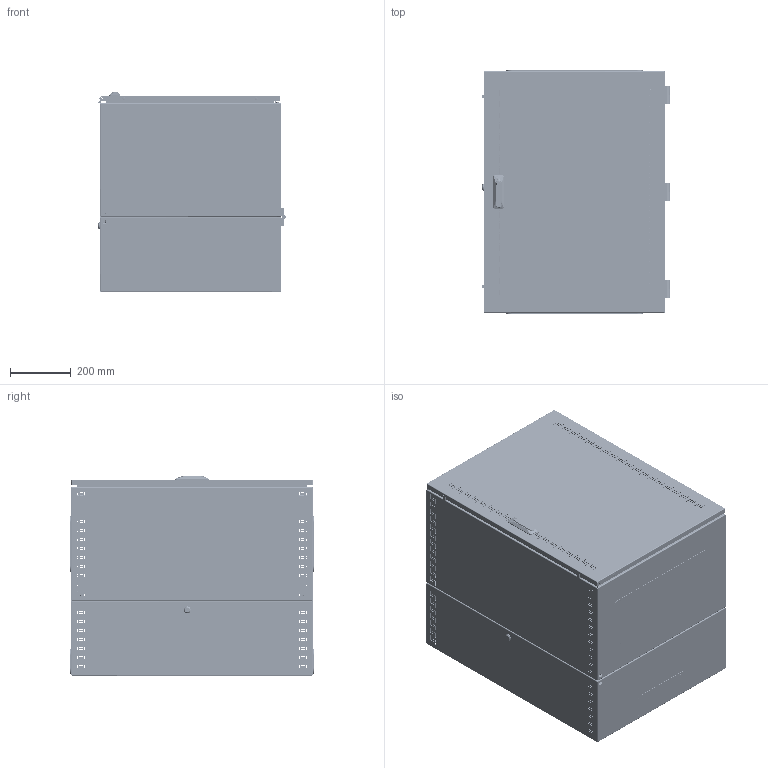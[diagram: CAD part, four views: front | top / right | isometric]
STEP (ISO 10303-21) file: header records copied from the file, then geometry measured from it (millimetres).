
FILE_DESCRIPTION (( 'STEP AP203' ), '1' );
FILE_NAME ('R5STI1665.STEP', '2019-07-16T12:19:47', ( '' ), ( '' ), 'SwSTEP 2.0', 'SolidWorks 2017', '' );
FILE_SCHEMA (( 'CONFIG_CONTROL_DESIGN' ));
Length unit declared in the file: millimetre
Products named in the file (50): Handle 308 Mesan; AC00C112; RB.0692.02.01.0; RB.0692.01.00.0 C縫-02 (800x600x400); M6-DIN 6923 (CM100600)_straight; AC00C380; RB.0374.06.00.0 捘_-02 (800x600); PF 7,5x15 door STI_0800x0600; RB.0692.02.00.0 C縫-02 (800x600x400); RB.0374.03.01.0; Lock 20x17,5x90 Ruslock; R5STI1665; RB.0692.03.01.0_-02 (800x600); RB.0374.00.01.0_-00 (400); Handle Mesan (part 1); Hinge M8 60x60 Ruslock; RB.0374.03.00.0 CÁ; Nut 20x17,5x90 Ruslock; RB.0374.01.02.0_-02 (800x600); MirrorRB.0374.00.01.0_-00 (400)<As Machined>; Handle Mesan (part 2); M8-DIN 6923 (CM100800)_stright; RB.0048.02.01.0; Ì6õ12-A5100231_straight; MirrorMirrorRB.0374.00.01.0_-00 (400)<As Machined><As Machined>; Catch Mesan; RB.0374.05.01.0_-02 (800x600); AC00C399; RB.0692.04.00.0 捘_-02 (800x600); RB.0692.03.00.0 C縫-02 (800x600); RB.0374.00.02.0_-02 (16U); Handle Mesan (part 3); AC00C398; M4x8 GOST 17475-80 (DIN 965)_straight; RB.0692.01.01.0_-02 (800x600x400); AC00C061_AC00C061; RB.0374.00.02.0 mirror_-06 (16U); 4.8x13 DIN 7981 (R5A07)_straight; Ì6õ12-A5100231_thread; AC00C383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
Assembly tree (162 placements, depth 4):
  R5STI1665
    RB.0692.04.00.0 捘_-02 (800x600)
      RB.0692.03.00.0 C縫-02 (800x600)
        RB.0692.03.01.0_-02 (800x600)
        RB.0374.01.02.0_-02 (800x600)
        Ì6õ12-A5100231_straight  x2
      AC00C061_AC00C061  x4
      RB.0374.04.00.0 CÁ  x2
        RB.0374.04.01.0
        Ì6õ12-A5100231_straight
      M6-DIN 6923 (CM100600)_straight  x8
      Lock 20x17,5x90 Ruslock
        Lock 20x17,5x90 Ruslock
        Nut 20x17,5x90 Ruslock
    RB.0692.02.00.0 C縫-02 (800x600x400)
      RB.0692.01.00.0 C縫-02 (800x600x400)
        RB.0692.01.01.0_-02 (800x600x400)
        RB.0692.01.02.0_-02 (800x600)
        Ì6õ20-A5100001_straight  x4
        Ì6õ12-A5100231_straight  x12
      RB.0374.03.00.0 CÁ  x2
        RB.0374.03.01.0
        Ì6õ12-A5100231_straight
      RB.0048.02.01.0  x2
      AC00C399  x2
      M4x8 GOST 17475-80 (DIN 965)_straight  x4
      AC00C383  x2
      AC00C061_AC00C061  x8
      M6-DIN 6923 (CM100600)_straight  x8
      M6 art.MGR-MKO-0625_2洵  x2
      RB.0692.02.01.0  x2
    Hinge M8 60x60 Ruslock  x6
    M8-DIN 6923 (CM100800)_stright  x12
    RB.0374.06.00.0 捘_-02 (800x600)
      RB.0374.05.00.0 捘_-02 (800x600)
        RB.0374.05.01.0_-02 (800x600)
        AC00C398  x2
        Ì6õ12-A5100231_straight
        Ì6õ12-A5100231_thread
      AC00C112  x4
      AC00C061_AC00C061  x2
      PF 7,5x15 door STI_0800x0600
      Handle 308 Mesan
        Handle Mesan (part 1)
        Handle Mesan (part 2)
        Catch Mesan
        Handle Mesan (part 3)
        4.8x13 DIN 7981 (R5A07)_straight  x3
        M6x10-A1100004_straight
    RB.0374.00.01.0_-00 (400)
    MirrorRB.0374.00.01.0_-00 (400)<As Machined>  x2
    MirrorMirrorRB.0374.00.01.0_-00 (400)<As Machined><As Machined>
    RB.0374.00.02.0_-02 (16U)  x2
    RB.0374.00.02.0 mirror_-06 (16U)  x2
    M6-DIN 6923 (CM100600)_straight  x16
    M6x12-DIN 6921_stright  x8
    AC00C401_AC00C401  x2
    AC00C380  x2
Bounding box: 620 x 803 x 662.96 mm (x, y, z)
Volume: 5004374.5 mm3; surface area: 7154654.6 mm2
Topology: 223 solids, 223 shells, 10126 faces, 26346 edges, 16926 vertices
Faces by surface type: plane 5897, cylinder 1749, bspline 1362, cone 856, torus 234, sphere 28
Entity records: 275338 total; most frequent: CARTESIAN_POINT 129019, ORIENTED_EDGE 30236, DIRECTION 24836, EDGE_CURVE 15118, VECTOR 11172, LINE 11172, VERTEX_POINT 9830, EDGE_LOOP 7056
